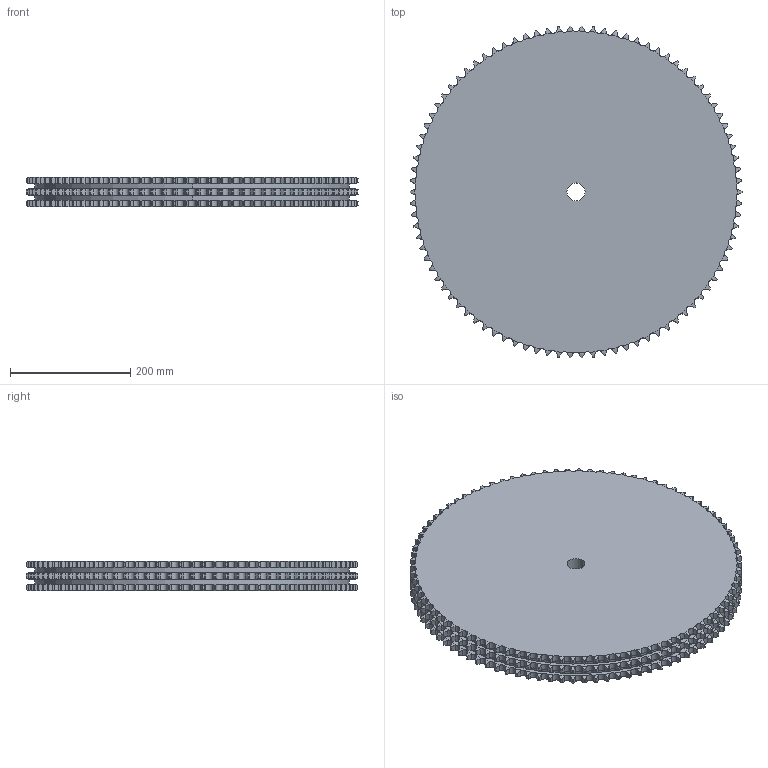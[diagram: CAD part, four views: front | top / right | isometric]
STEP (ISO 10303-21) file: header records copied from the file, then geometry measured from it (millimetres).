
FILE_DESCRIPTION((''),'2;1');
FILE_NAME('500-403-0090_PRT','2021-02-12T',('Brieden'),('Brieden'),'PRO/ENGINEER BY PARAMETRIC TECHNOLOGY CORPORATION, 2010160','PRO/ENGINEER BY PARAMETRIC TECHNOLOGY CORPORATION, 2010160','');
FILE_SCHEMA(('AUTOMOTIVE_DESIGN { 1 0 10303 214 1 1 1 1 }'));
Length unit declared in the file: millimetre
Products named in the file (1): 500-403-0090_PRT
Bounding box: 553.17 x 552.91 x 49.8 mm (x, y, z)
Volume: 11167930.7 mm3; surface area: 629263 mm2
Topology: 1 solids, 1 shells, 1632 faces, 4878 edges, 3252 vertices
Faces by surface type: cylinder 1086, torus 540, plane 6
Entity records: 81832 total; most frequent: CARTESIAN_POINT 25855, ORIENTED_EDGE 9756, DIRECTION 7614, PRESENTATION_STYLE_ASSIGNMENT 4879, STYLED_ITEM 4879, CURVE_STYLE 4878, EDGE_CURVE 4878, AXIS2_PLACEMENT_3D 3264
